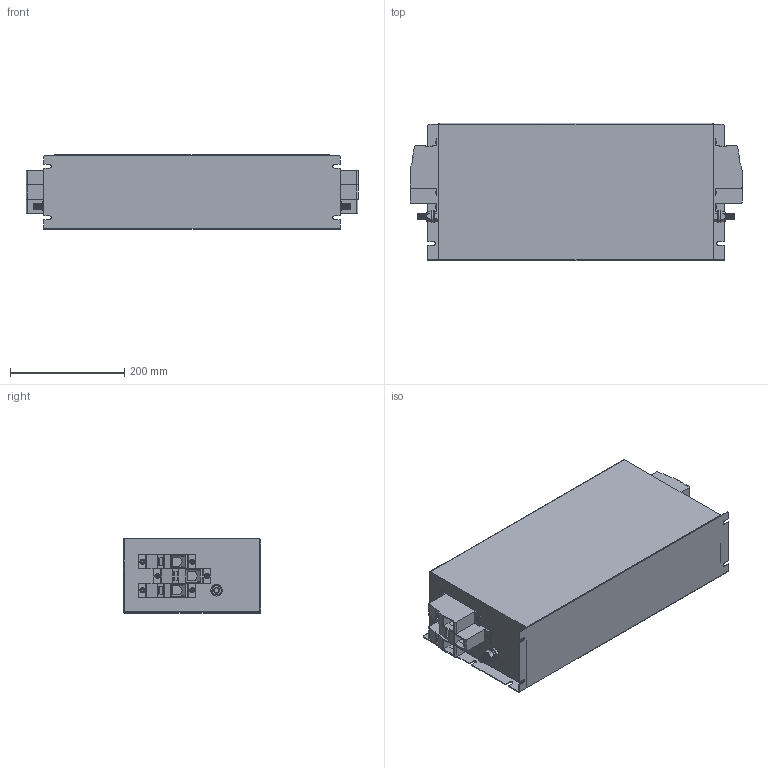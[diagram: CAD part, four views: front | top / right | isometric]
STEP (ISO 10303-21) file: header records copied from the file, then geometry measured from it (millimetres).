
FILE_DESCRIPTION (( 'STEP AP203' ), '1' );
FILE_NAME ('NF-KC-DAR-230.STEP', '2020-11-23T12:44:52', ( '' ), ( '' ), 'SwSTEP 2.0', 'SolidWorks 2017', '' );
FILE_SCHEMA (( 'CONFIG_CONTROL_DESIGN' ));
Length unit declared in the file: millimetre
Products named in the file (8): NF-KC-DAR-230; hex nut style 1_am_B18.2.4.1M - Hex nut, Style 1,  M10 x 1.5, with 16mm WAF --D-N; HDFK-95; M10x30 Earth post; flat washer narrow_am_B18.22M - Plain washer, 10 mm, narrow; hex screw_am_B18.6.7M - M10 x 1.5 x 30 Indented HHMS --30S; 5mm Rivet short
Assembly tree (25 placements, depth 3):
  NF-KC-DAR-230
    NF-KC-DAR-230
    HDFK-95  x6
    M10x30 Earth post  x2
      flat washer narrow_am_B18.22M - Plain washer, 10 mm, narrow
      hex nut style 1_am_B18.2.4.1M - Hex nut, Style 1,  M10 x 1.5, with 16mm WAF --D-N
      hex screw_am_B18.6.7M - M10 x 1.5 x 30 Indented HHMS --30S
    5mm Rivet short  x12
Bounding box: 580 x 240 x 130 mm (x, y, z)
Volume: 15420414 mm3; surface area: 613695.7 mm2
Topology: 27 solids, 27 shells, 1040 faces, 2554 edges, 1624 vertices
Faces by surface type: plane 531, cylinder 259, cone 224, torus 24, sphere 2
Entity records: 11602 total; most frequent: CARTESIAN_POINT 1949, DIRECTION 1852, ORIENTED_EDGE 1688, EDGE_CURVE 844, AXIS2_PLACEMENT_3D 685, VERTEX_POINT 534, VECTOR 482, LINE 482
